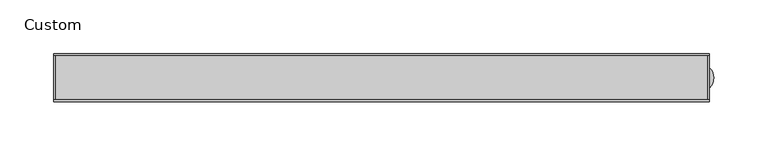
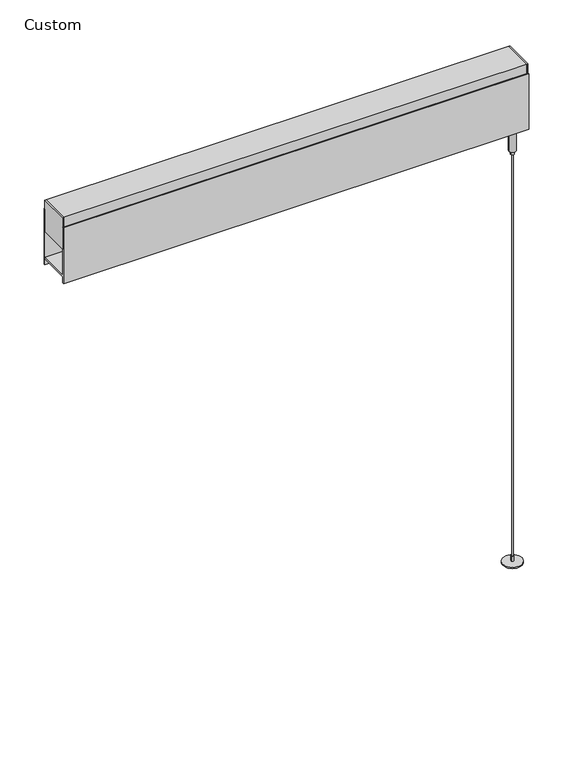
"""IFC4 building model written with IfcOpenShell, lengths in millimetres: light fixture geometry, Lighting-Pendant-Axis-Sculpt-Linear-Direct : Custom."""

from ifc_helpers import new_model, si_unit, point, frame, frame_2d, origin, origin_with_axes, place, context, project, spatial, polyline, circle_curve, trimmed, segment, composite_curve, outline, extrude, source, transform, mapped, element, save
from ifc_brep_helpers import plane_surface, cylinder_surface, revolved_surface, advanced_brep


def custom_95516761(model_context):
    return source(origin(), model_context, "Body", "SolidModel", [
        advanced_brep(
        [(291.5920001, 0.0, 604.4810805), (300.7359999, 0.0, 604.4810805), (300.7359999, 0.0, 570.5474987), (291.5920001, 0.0, 570.5474987), (288.2677367, 0.0, 609.6), (304.0602633, 0.0, 609.6), (293.8780001, 0.0, 565.4674991), (298.4499999, 0.0, 565.4674991), (296.164, 0.0, 565.4674991), (293.8780001, 0.0, 570.5474987), (298.4499999, 0.0, 570.5474987), (288.2677367, 0.0, 618.0455013), (304.0602633, 0.0, 618.0455013), (296.164, 0.0, 618.0455013)],
        [
            (0, 1, circle_curve(frame((296.164, 0.0, 604.4810805), z_axis=(0.0, 0.0, -1.0), x_axis=(1.0, 0.0, 0.0)), 4.5719999)),
            (1, 2),
            (2, 3, circle_curve(frame((296.164, 0.0, 570.5474987), z_axis=(0.0, 0.0, 1.0), x_axis=(1.0, 0.0, 0.0)), 4.5719999)),
            (3, 0),
            (1, 0, circle_curve(frame((296.164, 0.0, 604.4810805), z_axis=(0.0, 0.0, -1.0), x_axis=(1.0, 0.0, 0.0)), 4.5719999)),
            (3, 2, circle_curve(frame((296.164, 0.0, 570.5474987), z_axis=(0.0, 0.0, 1.0), x_axis=(1.0, 0.0, 0.0)), 4.5719999)),
            (4, 5, circle_curve(frame((296.164, 0.0, 609.6), z_axis=(0.0, 0.0, -1.0), x_axis=(1.0, 0.0, 0.0)), 7.8962633)),
            (5, 1),
            (0, 4),
            (5, 4, circle_curve(frame((296.164, 0.0, 609.6), z_axis=(0.0, 0.0, -1.0), x_axis=(1.0, 0.0, 0.0)), 7.8962633)),
            (6, 7, circle_curve(frame((296.164, 0.0, 565.4674991), z_axis=(0.0, 0.0, -1.0), x_axis=(1.0, 0.0, 0.0)), 2.2859999)),
            (7, 8),
            (8, 6),
            (7, 6, circle_curve(frame((296.164, 0.0, 565.4674991), z_axis=(0.0, 0.0, -1.0), x_axis=(1.0, 0.0, 0.0)), 2.2859999)),
            (9, 10, circle_curve(frame((296.164, 0.0, 570.5474987), z_axis=(0.0, 0.0, -1.0), x_axis=(1.0, 0.0, 0.0)), 2.2859999)),
            (10, 7),
            (6, 9),
            (10, 9, circle_curve(frame((296.164, 0.0, 570.5474987), z_axis=(0.0, 0.0, -1.0), x_axis=(1.0, 0.0, 0.0)), 2.2859999)),
            (2, 10),
            (9, 3),
            (11, 12, circle_curve(frame((296.164, 0.0, 618.0455013), z_axis=(0.0, 0.0, -1.0), x_axis=(1.0, 0.0, 0.0)), 7.8962633)),
            (12, 5),
            (4, 11),
            (12, 11, circle_curve(frame((296.164, 0.0, 618.0455013), z_axis=(0.0, 0.0, -1.0), x_axis=(1.0, 0.0, 0.0)), 7.8962633)),
            (13, 12),
            (11, 13),
        ],
        [
            cylinder_surface(frame((296.164, 0.0, 2761.4581012), z_axis=(0.0, 0.0, 1.0), x_axis=(1.0, 0.0, 0.0)), 4.5719999),
            revolved_surface(polyline([(300.7359999, 0.0, 604.4810805), (304.0602633, 0.0, 609.6)]), (296.164, 0.0, 2761.4581012), (0.0, 0.0, 1.0)),
            plane_surface(frame((296.164, 0.0, 565.4674991), z_axis=(0.0, 0.0, -1.0), x_axis=(1.0, 0.0, 0.0))),
            cylinder_surface(frame((296.164, 0.0, 2761.4581012), z_axis=(0.0, 0.0, 1.0), x_axis=(1.0, 0.0, 0.0)), 2.2859999),
            plane_surface(frame((296.164, 0.0, 570.5474987), z_axis=(0.0, 0.0, -1.0), x_axis=(1.0, 0.0, 0.0))),
            cylinder_surface(frame((296.164, 0.0, 2761.4581012), z_axis=(0.0, 0.0, 1.0), x_axis=(1.0, 0.0, 0.0)), 7.8962633),
            plane_surface(frame((296.164, 0.0, 618.0455013), z_axis=(0.0, 0.0, 1.0), x_axis=(1.0, 0.0, 0.0))),
        ],
        [
            (0, [[1, 2, 3, 4]]),
            (0, [[5, -4, 6, -2]]),
            (1, [[7, 8, -1, 9]]),
            (1, [[10, -9, -5, -8]]),
            (2, [[11, 12, 13]]),
            (2, [[14, -13, -12]]),
            (3, [[15, 16, -11, 17]]),
            (3, [[18, -17, -14, -16]]),
            (4, [[-3, 19, -15, 20]]),
            (4, [[-6, -20, -18, -19]]),
            (5, [[21, 22, -7, 23]]),
            (5, [[24, -23, -10, -22]]),
            (6, [[25, -21, 26]]),
            (6, [[-26, -24, -25]]),
        ],
    ),
        extrude(outline(composite_curve([segment(trimmed(circle_curve(frame_2d((296.164, 0.0)), 0.79375), [point((295.37025, 0.0))], [point((296.95775, 0.0))], False, "CARTESIAN"), True, "CONTINUOUS"), segment(trimmed(circle_curve(frame_2d((296.164, 0.0)), 0.79375), [point((296.95775, 0.0))], [point((295.37025, 0.0))], False, "CARTESIAN"), True, "CONTINUOUS")], self_intersect=False)), origin_with_axes(), (0.0, 0.0, 1.0), 565.4674991),
        extrude(outline(composite_curve([segment(trimmed(circle_curve(frame_2d((296.164, 0.0)), 12.7), [point((283.464, 0.0))], [point((308.864, 0.0))], False, "CARTESIAN"), True, "CONTINUOUS"), segment(trimmed(circle_curve(frame_2d((296.164, 0.0)), 12.7), [point((308.864, 0.0))], [point((283.464, 0.0))], False, "CARTESIAN"), True, "CONTINUOUS")], self_intersect=False)), origin_with_axes(), (0.0, 0.0, 1.0), 1.5875),
        extrude(outline(composite_curve([segment(trimmed(circle_curve(frame_2d((296.164, 0.0)), 1.5875), [point((294.5765, 0.0))], [point((297.7515, 0.0))], False, "CARTESIAN"), True, "CONTINUOUS"), segment(trimmed(circle_curve(frame_2d((296.164, 0.0)), 1.5875), [point((297.7515, 0.0))], [point((294.5765, 0.0))], False, "CARTESIAN"), True, "CONTINUOUS")], self_intersect=False)), frame((0.0, 0.0, 1.5875), z_axis=(0.0, 0.0, 1.0), x_axis=(1.0, 0.0, 0.0)), (0.0, 0.0, 1.0), 7.9375),
        extrude(outline(polyline([(-303.276, 20.193), (-303.276, -20.193), (-304.8, -20.193), (-304.8, 20.193), (-303.276, 20.193)])), frame((0.0, 0.0, 656.11502), z_axis=(0.0, 0.0, 1.0), x_axis=(1.0, 0.0, 0.0)), (0.0, 0.0, 1.0), 43.18),
        extrude(outline(polyline([(303.276, 20.193), (304.8, 20.193), (304.8, -20.193), (303.276, -20.193), (303.276, 20.193)])), frame((0.0, 0.0, 656.11502), z_axis=(0.0, 0.0, 1.0), x_axis=(1.0, 0.0, 0.0)), (0.0, 0.0, 1.0), 43.18),
        extrude(outline(polyline([(18.669, 656.11502), (18.669, 697.77102), (-18.669, 697.77102), (-18.669, 656.11502), (-20.193, 656.11502), (-20.193, 699.29502), (20.193, 699.29502), (20.193, 656.11502), (18.669, 656.11502)])), frame((-303.276, 0.0, 0.0), z_axis=(1.0, 0.0, 0.0), x_axis=(0.0, 1.0, 0.0)), (0.0, 0.0, 1.0), 606.552),
        extrude(outline(polyline([(-20.193, 620.0775), (20.193, 620.0775), (20.193, 686.59375), (22.225, 686.59375), (22.225, 609.6), (20.193, 609.6), (20.193, 618.0455), (-20.193, 618.0455), (-20.193, 609.6), (-22.225, 609.6), (-22.225, 686.59375), (-20.193, 686.59375), (-20.193, 620.0775)])), frame((-304.8, 0.0, 0.0), z_axis=(1.0, 0.0, 0.0), x_axis=(0.0, 1.0, 0.0)), (0.0, 0.0, 1.0), 609.6),
    ])


if __name__ == "__main__":
    model = new_model("IFC4")
    model_context = context("Model", 3, world=origin())
    ifc_project = project(units=[si_unit("LENGTHUNIT", "METRE", prefix="MILLI")], contexts=[model_context])
    site = spatial("IfcSite", under=ifc_project)
    building = spatial("IfcBuilding", under=site)
    placement = place(None, origin())
    custom_shape = custom_95516761(model_context)
    element("IfcLightFixture", 1, ObjectType="Lighting-Pendant-Axis-Sculpt-Linear-Direct : Custom", at=placement, inside=building, context=model_context, shape_type="MappedRepresentation", body=[
        mapped(custom_shape, transform((0.0, 0.0, 0.0), x_axis=(1.0, 0.0, 0.0), y_axis=(0.0, 1.0, 0.0), z_axis=(0.0, 0.0, 1.0))),
    ])
    save(model, "model.ifc")
